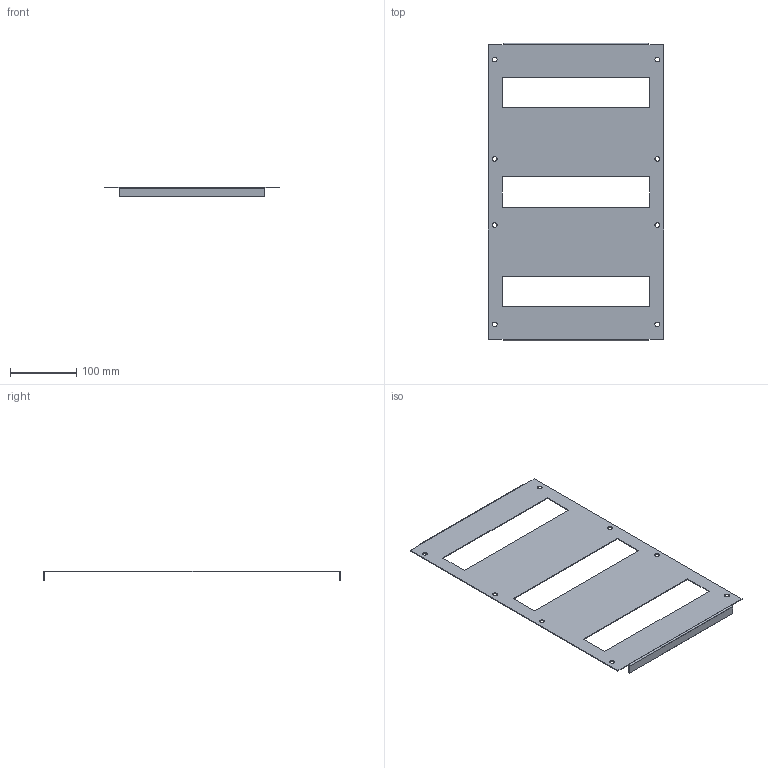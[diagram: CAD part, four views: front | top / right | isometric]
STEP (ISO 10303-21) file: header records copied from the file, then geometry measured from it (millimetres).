
FILE_DESCRIPTION (( 'STEP AP203' ), '1' );
FILE_NAME ('MB 45.30 P Ïàíåëü ìîäóëüíàÿ ñ âûðåçîì.STEP', '2022-05-12T11:38:47', ( '' ), ( '' ), 'SwSTEP 2.0', 'SolidWorks 2018', '' );
FILE_SCHEMA (( 'CONFIG_CONTROL_DESIGN' ));
Length unit declared in the file: millimetre
Products named in the file (1): MB 45.30 P Ïàíåëü ìîäóëüíàÿ ñ âûðåçîì
Bounding box: 265 x 449 x 15 mm (x, y, z)
Volume: 112117.8 mm3; surface area: 190787.1 mm2
Topology: 1 solids, 1 shells, 54 faces, 140 edges, 88 vertices
Faces by surface type: plane 34, cylinder 20
Entity records: 1757 total; most frequent: DIRECTION 290, CARTESIAN_POINT 283, ORIENTED_EDGE 280, EDGE_CURVE 140, LINE 100, VECTOR 100, AXIS2_PLACEMENT_3D 95, VERTEX_POINT 88
